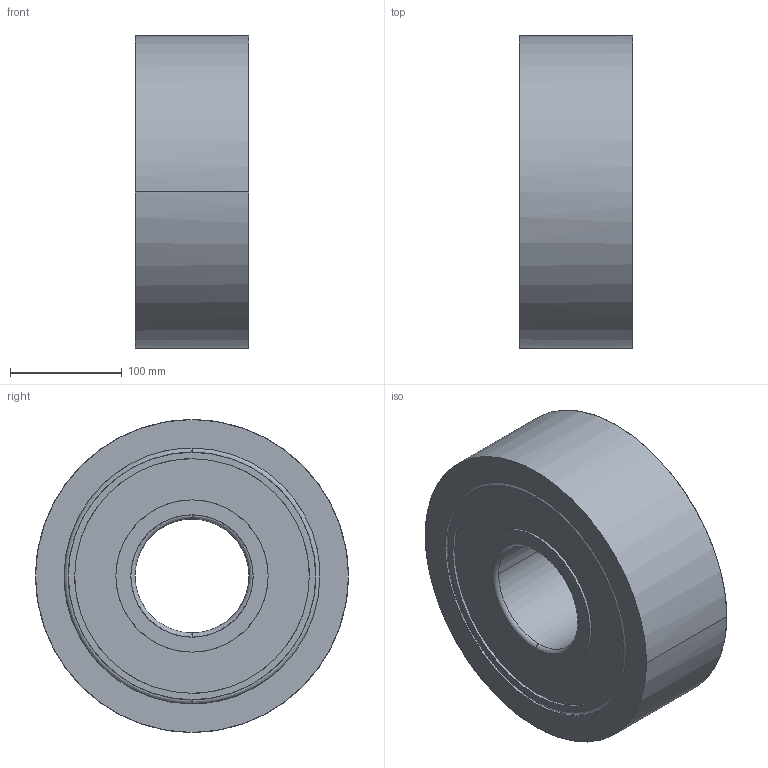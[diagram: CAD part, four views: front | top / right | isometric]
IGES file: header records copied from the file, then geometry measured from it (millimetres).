
Global section: native system: Kubotek KeyCreator; preprocessor: KCM Version 1.1.1442.0; author: KeyCreator User; organization: Self; date: 20170714.084832; units: inch
Bounding box: 101.6 x 279.4 x 279.4 mm (x, y, z)
Surface area: 241158.7 mm2 (no closed solid volume)
Topology: 0 solids, 0 shells, 32 faces, 208 edges, 208 vertices
Faces by surface type: bspline 32
